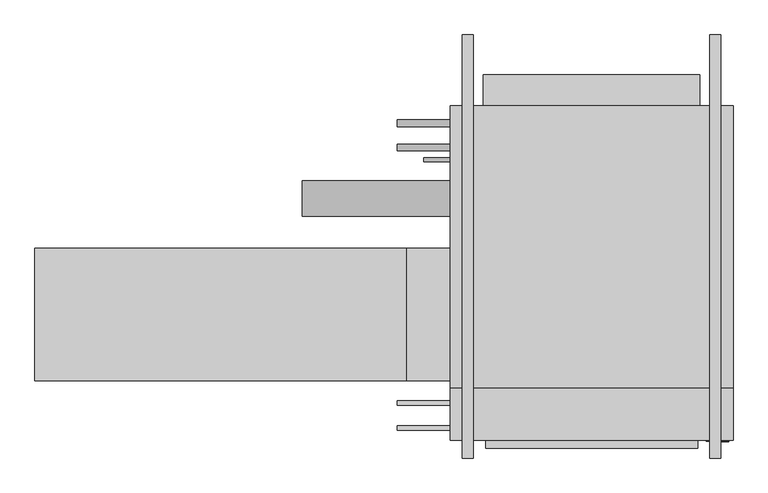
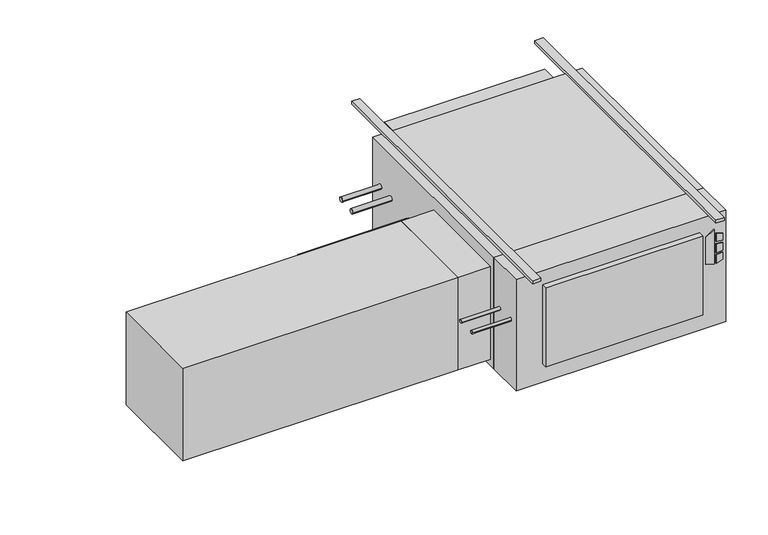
"""IFC4 building model written with IfcOpenShell, lengths in millimetres: proxy geometry."""

from ifc_helpers import new_model, si_unit, point, frame, frame_2d, origin, origin_with_axes, place, context, project, spatial, polyline, circle_curve, trimmed, segment, composite_curve, outline, extrude, source, transform, mapped, element, save


def mechanical_equipment_d1fae188(model_context):
    return source(origin(), model_context, "Body", "SweptSolid", [
        extrude(outline(polyline([(-193.2519297, 481.0868862), (-203.2, 513.2602728), (-61.0290756, 513.2602728), (-84.0510817, 481.0868862), (-193.2519297, 481.0868862)])), frame((0.0, -797.052, 0.0), z_axis=(0.0, 1.0, 0.0), x_axis=(0.0, 0.0, 1.0)), (0.0, 0.0, 1.0), 3.175),
        extrude(outline(polyline([(-114.2526443, 520.0186058), (-117.4550368, 546.1), (-88.2261958, 546.1), (-80.1617807, 520.0186058), (-114.2526443, 520.0186058)])), frame((0.0, -797.052, 0.0), z_axis=(0.0, 1.0, 0.0), x_axis=(0.0, 0.0, 1.0)), (0.0, 0.0, 1.0), 3.175),
        extrude(outline(polyline([(-166.1161712, 546.1), (-169.7816721, 520.0186058), (-203.2, 520.0186058), (-194.5657628, 546.1), (-166.1161712, 546.1)])), frame((0.0, -797.052, 0.0), z_axis=(0.0, 1.0, 0.0), x_axis=(0.0, 0.0, 1.0)), (0.0, 0.0, 1.0), 3.175),
        extrude(outline(polyline([(-126.8010097, 546.1), (-124.5191834, 520.0186058), (-160.4567319, 520.0186058), (-157.7154669, 546.1), (-126.8010097, 546.1)])), frame((0.0, -797.052, 0.0), z_axis=(0.0, 1.0, 0.0), x_axis=(0.0, 0.0, 1.0)), (0.0, 0.0, 1.0), 3.175),
        extrude(outline(polyline([(558.8, -793.877), (-254.0, -793.877), (-254.0, -644.525), (558.8, -644.525), (558.8, -793.877)])), frame((0.0, 0.0, -457.2), z_axis=(0.0, 0.0, 1.0), x_axis=(1.0, 0.0, 0.0)), (0.0, 0.0, 1.0), 457.2),
        extrude(outline(polyline([(457.2, -816.229), (-152.4, -816.229), (-152.4, -793.877), (457.2, -793.877), (457.2, -816.229)])), frame((0.0, 0.0, -381.0), z_axis=(0.0, 0.0, 1.0), x_axis=(1.0, 0.0, 0.0)), (0.0, 0.0, 1.0), 323.85),
        extrude(outline(polyline([(-1447.8, -622.3), (-1447.8, -241.3), (-381.0, -241.3), (-381.0, -622.3), (-1447.8, -622.3)])), frame((0.0, 0.0, -431.8), z_axis=(0.0, 0.0, 1.0), x_axis=(1.0, 0.0, 0.0)), (0.0, 0.0, 1.0), 381.0),
        extrude(outline(polyline([(-254.0, -241.3), (-254.0, -622.3), (-381.0, -622.3), (-381.0, -241.3), (-254.0, -241.3)])), frame((0.0, 0.0, -431.8), z_axis=(0.0, 0.0, 1.0), x_axis=(1.0, 0.0, 0.0)), (0.0, 0.0, 1.0), 381.0),
        extrude(outline(composite_curve([segment(trimmed(circle_curve(frame_2d((-758.825, -184.15)), 6.35), [point((-765.175, -184.15))], [point((-752.475, -184.15))], False, "CARTESIAN"), True, "CONTINUOUS"), segment(trimmed(circle_curve(frame_2d((-758.825, -184.15)), 6.35), [point((-752.475, -184.15))], [point((-765.175, -184.15))], False, "CARTESIAN"), True, "CONTINUOUS")], self_intersect=False)), frame((-406.4, 0.0, 0.0), z_axis=(1.0, 0.0, 0.0), x_axis=(0.0, 1.0, 0.0)), (0.0, 0.0, 1.0), 152.4),
        extrude(outline(composite_curve([segment(trimmed(circle_curve(frame_2d((-685.8, -184.15)), 6.35), [point((-692.15, -184.15))], [point((-679.45, -184.15))], False, "CARTESIAN"), True, "CONTINUOUS"), segment(trimmed(circle_curve(frame_2d((-685.8, -184.15)), 6.35), [point((-679.45, -184.15))], [point((-692.15, -184.15))], False, "CARTESIAN"), True, "CONTINUOUS")], self_intersect=False)), frame((-406.4, 0.0, 0.0), z_axis=(1.0, 0.0, 0.0), x_axis=(0.0, 1.0, 0.0)), (0.0, 0.0, 1.0), 152.4),
        extrude(outline(composite_curve([segment(trimmed(circle_curve(frame_2d((-98.4896516, -228.6360165)), 50.8), [point((-149.2896516, -228.6360165))], [point((-47.6896516, -228.6360165))], False, "CARTESIAN"), True, "CONTINUOUS"), segment(trimmed(circle_curve(frame_2d((-98.4896516, -228.6360165)), 50.8), [point((-47.6896516, -228.6360165))], [point((-149.2896516, -228.6360165))], False, "CARTESIAN"), True, "CONTINUOUS")], self_intersect=False)), frame((-679.45, 0.0, 0.0), z_axis=(1.0, 0.0, 0.0), x_axis=(0.0, 1.0, 0.0)), (0.0, 0.0, 1.0), 425.45),
        extrude(outline(composite_curve([segment(trimmed(circle_curve(frame_2d((47.625, -177.8)), 9.525), [point((38.1, -177.8))], [point((57.15, -177.8))], False, "CARTESIAN"), True, "CONTINUOUS"), segment(trimmed(circle_curve(frame_2d((47.625, -177.8)), 9.525), [point((57.15, -177.8))], [point((38.1, -177.8))], False, "CARTESIAN"), True, "CONTINUOUS")], self_intersect=False)), frame((-406.4, 0.0, 0.0), z_axis=(1.0, 0.0, 0.0), x_axis=(0.0, 1.0, 0.0)), (0.0, 0.0, 1.0), 152.4),
        extrude(outline(composite_curve([segment(trimmed(circle_curve(frame_2d((117.475, -171.45)), 9.525), [point((107.95, -171.45))], [point((127.0, -171.45))], False, "CARTESIAN"), True, "CONTINUOUS"), segment(trimmed(circle_curve(frame_2d((117.475, -171.45)), 9.525), [point((127.0, -171.45))], [point((107.95, -171.45))], False, "CARTESIAN"), True, "CONTINUOUS")], self_intersect=False)), frame((-406.4, 0.0, 0.0), z_axis=(1.0, 0.0, 0.0), x_axis=(0.0, 1.0, 0.0)), (0.0, 0.0, 1.0), 152.4),
        extrude(outline(composite_curve([segment(trimmed(circle_curve(frame_2d((12.7, -409.575)), 6.35), [point((6.35, -409.575))], [point((19.05, -409.575))], False, "CARTESIAN"), True, "CONTINUOUS"), segment(trimmed(circle_curve(frame_2d((12.7, -409.575)), 6.35), [point((19.05, -409.575))], [point((6.35, -409.575))], False, "CARTESIAN"), True, "CONTINUOUS")], self_intersect=False)), frame((-330.2, 0.0, 0.0), z_axis=(1.0, 0.0, 0.0), x_axis=(0.0, 1.0, 0.0)), (0.0, 0.0, 1.0), 76.2),
        extrude(outline(polyline([(558.8, 168.275), (558.8, -644.525), (-254.0, -644.525), (-254.0, 168.275), (558.8, 168.275)])), frame((0.0, 0.0, -457.2), z_axis=(0.0, 0.0, 1.0), x_axis=(1.0, 0.0, 0.0)), (0.0, 0.0, 1.0), 457.2),
        extrude(outline(polyline([(-158.75, 257.175), (463.55, 257.175), (463.55, 168.275), (-158.75, 168.275), (-158.75, 257.175)])), frame((0.0, 0.0, -381.0), z_axis=(0.0, 0.0, 1.0), x_axis=(1.0, 0.0, 0.0)), (0.0, 0.0, 1.0), 355.6),
        extrude(outline(polyline([(-187.325, 371.475), (-187.325, -844.677), (-219.075, -844.677), (-219.075, 371.475), (-187.325, 371.475)])), origin_with_axes(), (0.0, 0.0, 1.0), 12.7),
        extrude(outline(polyline([(523.875, 371.475), (523.875, -844.677), (492.125, -844.677), (492.125, 371.475), (523.875, 371.475)])), origin_with_axes(), (0.0, 0.0, 1.0), 12.7),
    ])


if __name__ == "__main__":
    model = new_model("IFC4")
    model_context = context("Model", 3, world=origin())
    ifc_project = project(units=[si_unit("LENGTHUNIT", "METRE", prefix="MILLI")], contexts=[model_context])
    site = spatial("IfcSite", under=ifc_project)
    building = spatial("IfcBuilding", under=site)
    placement = place(None, origin())
    mechanical_equipment_shape = mechanical_equipment_d1fae188(model_context)
    element("IfcBuildingElementProxy", 1, Name="High_Capacity_Horizontal_Cabinet_Fan_Coil_Unit_-_HTY_-_IEC_-_4-Pipe_WO-Attenuator_LH Side_2022 : Size 10 - 115v/60Hz/1Ph - 4/1 Coil - 4\" AirIn", ObjectType="High_Capacity_Horizontal_Cabinet_Fan_Coil_Unit_-_HTY_-_IEC_-_4-Pipe_WO-Attenuator_LH Side_2022 : Size 10 - 115v/60Hz/1Ph - 4/1 Coil - 4\" AirIn", at=placement, inside=building, context=model_context, shape_type="MappedRepresentation", body=[
        mapped(mechanical_equipment_shape, transform((0.0, 0.0, 0.0), x_axis=(1.0, 0.0, 0.0), y_axis=(0.0, 1.0, 0.0), z_axis=(0.0, 0.0, 1.0))),
    ])
    save(model, "model.ifc")
